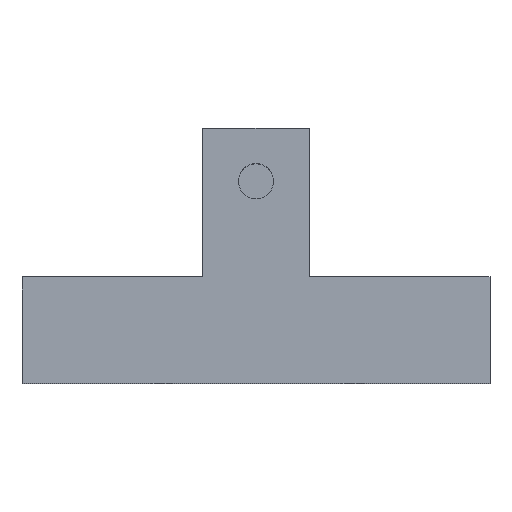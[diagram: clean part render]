
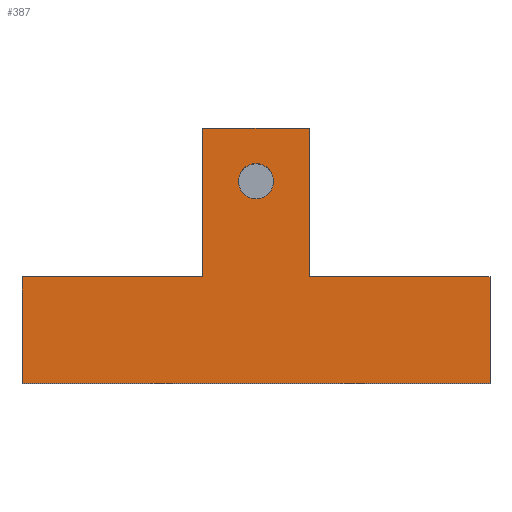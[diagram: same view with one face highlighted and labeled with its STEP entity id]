
A CAD part, top view. The second image highlights one B-rep face of the part: STEP entity #387.
In plain terms, the highlighted planar face has unit normal (0, 0, 1).
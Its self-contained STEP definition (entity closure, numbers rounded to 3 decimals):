
#24 = VERTEX_POINT('',#25);
#25 = CARTESIAN_POINT('',(-22.,-10.,11.));
#32 = PLANE('',#33);
#33 = AXIS2_PLACEMENT_3D('',#34,#35,#36);
#34 = CARTESIAN_POINT('',(-22.,-10.,-6.));
#35 = DIRECTION('',(1.,0.,0.));
#36 = DIRECTION('',(0.,0.,1.));
#44 = PLANE('',#45);
#45 = AXIS2_PLACEMENT_3D('',#46,#47,#48);
#46 = CARTESIAN_POINT('',(-22.,-10.,-6.));
#47 = DIRECTION('',(0.,1.,0.));
#48 = DIRECTION('',(0.,0.,1.));
#85 = VERTEX_POINT('',#86);
#86 = CARTESIAN_POINT('',(-22.,0.,11.));
#100 = PLANE('',#101);
#101 = AXIS2_PLACEMENT_3D('',#102,#103,#104);
#102 = CARTESIAN_POINT('',(-22.,0.,-6.));
#103 = DIRECTION('',(0.,1.,0.));
#104 = DIRECTION('',(0.,0.,1.));
#112 = EDGE_CURVE('',#24,#85,#113,.T.);
#113 = SURFACE_CURVE('',#114,(#118,#125),.PCURVE_S1.);
#114 = LINE('',#115,#116);
#115 = CARTESIAN_POINT('',(-22.,-10.,11.));
#116 = VECTOR('',#117,1.);
#117 = DIRECTION('',(0.,1.,0.));
#118 = PCURVE('',#32,#119);
#119 = DEFINITIONAL_REPRESENTATION('',(#120),#124);
#120 = LINE('',#121,#122);
#121 = CARTESIAN_POINT('',(17.,0.));
#122 = VECTOR('',#123,1.);
#123 = DIRECTION('',(0.,-1.));
#124 = ( GEOMETRIC_REPRESENTATION_CONTEXT(2)
PARAMETRIC_REPRESENTATION_CONTEXT() REPRESENTATION_CONTEXT('2D SPACE',''
  ) );
#125 = PCURVE('',#126,#131);
#126 = PLANE('',#127);
#127 = AXIS2_PLACEMENT_3D('',#128,#129,#130);
#128 = CARTESIAN_POINT('',(-22.,-10.,11.));
#129 = DIRECTION('',(0.,0.,1.));
#130 = DIRECTION('',(1.,0.,0.));
#131 = DEFINITIONAL_REPRESENTATION('',(#132),#136);
#132 = LINE('',#133,#134);
#133 = CARTESIAN_POINT('',(0.,0.));
#134 = VECTOR('',#135,1.);
#135 = DIRECTION('',(0.,1.));
#136 = ( GEOMETRIC_REPRESENTATION_CONTEXT(2)
PARAMETRIC_REPRESENTATION_CONTEXT() REPRESENTATION_CONTEXT('2D SPACE',''
  ) );
#165 = EDGE_CURVE('',#24,#166,#168,.T.);
#166 = VERTEX_POINT('',#167);
#167 = CARTESIAN_POINT('',(22.,-10.,11.));
#168 = SURFACE_CURVE('',#169,(#173,#180),.PCURVE_S1.);
#169 = LINE('',#170,#171);
#170 = CARTESIAN_POINT('',(-22.,-10.,11.));
#171 = VECTOR('',#172,1.);
#172 = DIRECTION('',(1.,0.,0.));
#173 = PCURVE('',#44,#174);
#174 = DEFINITIONAL_REPRESENTATION('',(#175),#179);
#175 = LINE('',#176,#177);
#176 = CARTESIAN_POINT('',(17.,0.));
#177 = VECTOR('',#178,1.);
#178 = DIRECTION('',(0.,1.));
#179 = ( GEOMETRIC_REPRESENTATION_CONTEXT(2)
PARAMETRIC_REPRESENTATION_CONTEXT() REPRESENTATION_CONTEXT('2D SPACE',''
  ) );
#180 = PCURVE('',#126,#181);
#181 = DEFINITIONAL_REPRESENTATION('',(#182),#186);
#182 = LINE('',#183,#184);
#183 = CARTESIAN_POINT('',(0.,0.));
#184 = VECTOR('',#185,1.);
#185 = DIRECTION('',(1.,0.));
#186 = ( GEOMETRIC_REPRESENTATION_CONTEXT(2)
PARAMETRIC_REPRESENTATION_CONTEXT() REPRESENTATION_CONTEXT('2D SPACE',''
  ) );
#204 = PLANE('',#205);
#205 = AXIS2_PLACEMENT_3D('',#206,#207,#208);
#206 = CARTESIAN_POINT('',(22.,-10.,-6.));
#207 = DIRECTION('',(1.,0.,0.));
#208 = DIRECTION('',(0.,0.,1.));
#387 = ADVANCED_FACE('',(#388,#543),#126,.T.);
#388 = FACE_BOUND('',#389,.T.);
#389 = EDGE_LOOP('',(#390,#413,#414,#415,#438,#461,#489,#517));
#390 = ORIENTED_EDGE('',*,*,#391,.F.);
#391 = EDGE_CURVE('',#85,#392,#394,.T.);
#392 = VERTEX_POINT('',#393);
#393 = CARTESIAN_POINT('',(-5.,0.,11.));
#394 = SURFACE_CURVE('',#395,(#399,#406),.PCURVE_S1.);
#395 = LINE('',#396,#397);
#396 = CARTESIAN_POINT('',(-22.,0.,11.));
#397 = VECTOR('',#398,1.);
#398 = DIRECTION('',(1.,0.,0.));
#399 = PCURVE('',#126,#400);
#400 = DEFINITIONAL_REPRESENTATION('',(#401),#405);
#401 = LINE('',#402,#403);
#402 = CARTESIAN_POINT('',(0.,10.));
#403 = VECTOR('',#404,1.);
#404 = DIRECTION('',(1.,0.));
#405 = ( GEOMETRIC_REPRESENTATION_CONTEXT(2)
PARAMETRIC_REPRESENTATION_CONTEXT() REPRESENTATION_CONTEXT('2D SPACE',''
  ) );
#406 = PCURVE('',#100,#407);
#407 = DEFINITIONAL_REPRESENTATION('',(#408),#412);
#408 = LINE('',#409,#410);
#409 = CARTESIAN_POINT('',(17.,0.));
#410 = VECTOR('',#411,1.);
#411 = DIRECTION('',(0.,1.));
#412 = ( GEOMETRIC_REPRESENTATION_CONTEXT(2)
PARAMETRIC_REPRESENTATION_CONTEXT() REPRESENTATION_CONTEXT('2D SPACE',''
  ) );
#413 = ORIENTED_EDGE('',*,*,#112,.F.);
#414 = ORIENTED_EDGE('',*,*,#165,.T.);
#415 = ORIENTED_EDGE('',*,*,#416,.T.);
#416 = EDGE_CURVE('',#166,#417,#419,.T.);
#417 = VERTEX_POINT('',#418);
#418 = CARTESIAN_POINT('',(22.,0.,11.));
#419 = SURFACE_CURVE('',#420,(#424,#431),.PCURVE_S1.);
#420 = LINE('',#421,#422);
#421 = CARTESIAN_POINT('',(22.,-10.,11.));
#422 = VECTOR('',#423,1.);
#423 = DIRECTION('',(0.,1.,0.));
#424 = PCURVE('',#126,#425);
#425 = DEFINITIONAL_REPRESENTATION('',(#426),#430);
#426 = LINE('',#427,#428);
#427 = CARTESIAN_POINT('',(44.,0.));
#428 = VECTOR('',#429,1.);
#429 = DIRECTION('',(0.,1.));
#430 = ( GEOMETRIC_REPRESENTATION_CONTEXT(2)
PARAMETRIC_REPRESENTATION_CONTEXT() REPRESENTATION_CONTEXT('2D SPACE',''
  ) );
#431 = PCURVE('',#204,#432);
#432 = DEFINITIONAL_REPRESENTATION('',(#433),#437);
#433 = LINE('',#434,#435);
#434 = CARTESIAN_POINT('',(17.,0.));
#435 = VECTOR('',#436,1.);
#436 = DIRECTION('',(0.,-1.));
#437 = ( GEOMETRIC_REPRESENTATION_CONTEXT(2)
PARAMETRIC_REPRESENTATION_CONTEXT() REPRESENTATION_CONTEXT('2D SPACE',''
  ) );
#438 = ORIENTED_EDGE('',*,*,#439,.F.);
#439 = EDGE_CURVE('',#440,#417,#442,.T.);
#440 = VERTEX_POINT('',#441);
#441 = CARTESIAN_POINT('',(5.,0.,11.));
#442 = SURFACE_CURVE('',#443,(#447,#454),.PCURVE_S1.);
#443 = LINE('',#444,#445);
#444 = CARTESIAN_POINT('',(-22.,0.,11.));
#445 = VECTOR('',#446,1.);
#446 = DIRECTION('',(1.,0.,0.));
#447 = PCURVE('',#126,#448);
#448 = DEFINITIONAL_REPRESENTATION('',(#449),#453);
#449 = LINE('',#450,#451);
#450 = CARTESIAN_POINT('',(0.,10.));
#451 = VECTOR('',#452,1.);
#452 = DIRECTION('',(1.,0.));
#453 = ( GEOMETRIC_REPRESENTATION_CONTEXT(2)
PARAMETRIC_REPRESENTATION_CONTEXT() REPRESENTATION_CONTEXT('2D SPACE',''
  ) );
#454 = PCURVE('',#100,#455);
#455 = DEFINITIONAL_REPRESENTATION('',(#456),#460);
#456 = LINE('',#457,#458);
#457 = CARTESIAN_POINT('',(17.,0.));
#458 = VECTOR('',#459,1.);
#459 = DIRECTION('',(0.,1.));
#460 = ( GEOMETRIC_REPRESENTATION_CONTEXT(2)
PARAMETRIC_REPRESENTATION_CONTEXT() REPRESENTATION_CONTEXT('2D SPACE',''
  ) );
#461 = ORIENTED_EDGE('',*,*,#462,.T.);
#462 = EDGE_CURVE('',#440,#463,#465,.T.);
#463 = VERTEX_POINT('',#464);
#464 = CARTESIAN_POINT('',(5.,14.,11.));
#465 = SURFACE_CURVE('',#466,(#470,#477),.PCURVE_S1.);
#466 = LINE('',#467,#468);
#467 = CARTESIAN_POINT('',(5.,-0.5,11.));
#468 = VECTOR('',#469,1.);
#469 = DIRECTION('',(0.,1.,0.));
#470 = PCURVE('',#126,#471);
#471 = DEFINITIONAL_REPRESENTATION('',(#472),#476);
#472 = LINE('',#473,#474);
#473 = CARTESIAN_POINT('',(27.,9.5));
#474 = VECTOR('',#475,1.);
#475 = DIRECTION('',(0.,1.));
#476 = ( GEOMETRIC_REPRESENTATION_CONTEXT(2)
PARAMETRIC_REPRESENTATION_CONTEXT() REPRESENTATION_CONTEXT('2D SPACE',''
  ) );
#477 = PCURVE('',#478,#483);
#478 = PLANE('',#479);
#479 = AXIS2_PLACEMENT_3D('',#480,#481,#482);
#480 = CARTESIAN_POINT('',(5.,-0.5,3.));
#481 = DIRECTION('',(1.,0.,0.));
#482 = DIRECTION('',(0.,0.,1.));
#483 = DEFINITIONAL_REPRESENTATION('',(#484),#488);
#484 = LINE('',#485,#486);
#485 = CARTESIAN_POINT('',(8.,0.));
#486 = VECTOR('',#487,1.);
#487 = DIRECTION('',(0.,-1.));
#488 = ( GEOMETRIC_REPRESENTATION_CONTEXT(2)
PARAMETRIC_REPRESENTATION_CONTEXT() REPRESENTATION_CONTEXT('2D SPACE',''
  ) );
#489 = ORIENTED_EDGE('',*,*,#490,.F.);
#490 = EDGE_CURVE('',#491,#463,#493,.T.);
#491 = VERTEX_POINT('',#492);
#492 = CARTESIAN_POINT('',(-5.,14.,11.));
#493 = SURFACE_CURVE('',#494,(#498,#505),.PCURVE_S1.);
#494 = LINE('',#495,#496);
#495 = CARTESIAN_POINT('',(-5.,14.,11.));
#496 = VECTOR('',#497,1.);
#497 = DIRECTION('',(1.,0.,0.));
#498 = PCURVE('',#126,#499);
#499 = DEFINITIONAL_REPRESENTATION('',(#500),#504);
#500 = LINE('',#501,#502);
#501 = CARTESIAN_POINT('',(17.,24.));
#502 = VECTOR('',#503,1.);
#503 = DIRECTION('',(1.,0.));
#504 = ( GEOMETRIC_REPRESENTATION_CONTEXT(2)
PARAMETRIC_REPRESENTATION_CONTEXT() REPRESENTATION_CONTEXT('2D SPACE',''
  ) );
#505 = PCURVE('',#506,#511);
#506 = PLANE('',#507);
#507 = AXIS2_PLACEMENT_3D('',#508,#509,#510);
#508 = CARTESIAN_POINT('',(-5.,14.,3.));
#509 = DIRECTION('',(0.,1.,0.));
#510 = DIRECTION('',(0.,0.,1.));
#511 = DEFINITIONAL_REPRESENTATION('',(#512),#516);
#512 = LINE('',#513,#514);
#513 = CARTESIAN_POINT('',(8.,0.));
#514 = VECTOR('',#515,1.);
#515 = DIRECTION('',(0.,1.));
#516 = ( GEOMETRIC_REPRESENTATION_CONTEXT(2)
PARAMETRIC_REPRESENTATION_CONTEXT() REPRESENTATION_CONTEXT('2D SPACE',''
  ) );
#517 = ORIENTED_EDGE('',*,*,#518,.F.);
#518 = EDGE_CURVE('',#392,#491,#519,.T.);
#519 = SURFACE_CURVE('',#520,(#524,#531),.PCURVE_S1.);
#520 = LINE('',#521,#522);
#521 = CARTESIAN_POINT('',(-5.,-0.5,11.));
#522 = VECTOR('',#523,1.);
#523 = DIRECTION('',(0.,1.,0.));
#524 = PCURVE('',#126,#525);
#525 = DEFINITIONAL_REPRESENTATION('',(#526),#530);
#526 = LINE('',#527,#528);
#527 = CARTESIAN_POINT('',(17.,9.5));
#528 = VECTOR('',#529,1.);
#529 = DIRECTION('',(0.,1.));
#530 = ( GEOMETRIC_REPRESENTATION_CONTEXT(2)
PARAMETRIC_REPRESENTATION_CONTEXT() REPRESENTATION_CONTEXT('2D SPACE',''
  ) );
#531 = PCURVE('',#532,#537);
#532 = PLANE('',#533);
#533 = AXIS2_PLACEMENT_3D('',#534,#535,#536);
#534 = CARTESIAN_POINT('',(-5.,-0.5,3.));
#535 = DIRECTION('',(1.,0.,0.));
#536 = DIRECTION('',(0.,0.,1.));
#537 = DEFINITIONAL_REPRESENTATION('',(#538),#542);
#538 = LINE('',#539,#540);
#539 = CARTESIAN_POINT('',(8.,0.));
#540 = VECTOR('',#541,1.);
#541 = DIRECTION('',(0.,-1.));
#542 = ( GEOMETRIC_REPRESENTATION_CONTEXT(2)
PARAMETRIC_REPRESENTATION_CONTEXT() REPRESENTATION_CONTEXT('2D SPACE',''
  ) );
#543 = FACE_BOUND('',#544,.T.);
#544 = EDGE_LOOP('',(#545));
#545 = ORIENTED_EDGE('',*,*,#546,.F.);
#546 = EDGE_CURVE('',#547,#547,#549,.T.);
#547 = VERTEX_POINT('',#548);
#548 = CARTESIAN_POINT('',(1.65,9.,11.));
#549 = SURFACE_CURVE('',#550,(#555,#562),.PCURVE_S1.);
#550 = CIRCLE('',#551,1.65);
#551 = AXIS2_PLACEMENT_3D('',#552,#553,#554);
#552 = CARTESIAN_POINT('',(0.,9.,11.));
#553 = DIRECTION('',(0.,0.,1.));
#554 = DIRECTION('',(1.,0.,-0.));
#555 = PCURVE('',#126,#556);
#556 = DEFINITIONAL_REPRESENTATION('',(#557),#561);
#557 = CIRCLE('',#558,1.65);
#558 = AXIS2_PLACEMENT_2D('',#559,#560);
#559 = CARTESIAN_POINT('',(22.,19.));
#560 = DIRECTION('',(1.,0.));
#561 = ( GEOMETRIC_REPRESENTATION_CONTEXT(2)
PARAMETRIC_REPRESENTATION_CONTEXT() REPRESENTATION_CONTEXT('2D SPACE',''
  ) );
#562 = PCURVE('',#563,#568);
#563 = CYLINDRICAL_SURFACE('',#564,1.65);
#564 = AXIS2_PLACEMENT_3D('',#565,#566,#567);
#565 = CARTESIAN_POINT('',(0.,9.,2.));
#566 = DIRECTION('',(0.,0.,1.));
#567 = DIRECTION('',(1.,0.,-0.));
#568 = DEFINITIONAL_REPRESENTATION('',(#569),#573);
#569 = LINE('',#570,#571);
#570 = CARTESIAN_POINT('',(0.,9.));
#571 = VECTOR('',#572,1.);
#572 = DIRECTION('',(1.,0.));
#573 = ( GEOMETRIC_REPRESENTATION_CONTEXT(2)
PARAMETRIC_REPRESENTATION_CONTEXT() REPRESENTATION_CONTEXT('2D SPACE',''
  ) );
